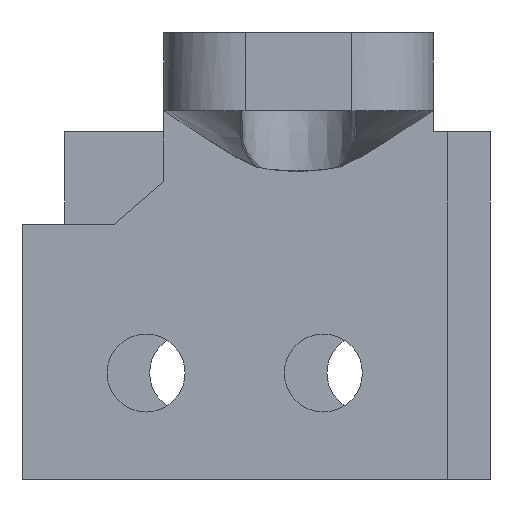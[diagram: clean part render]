
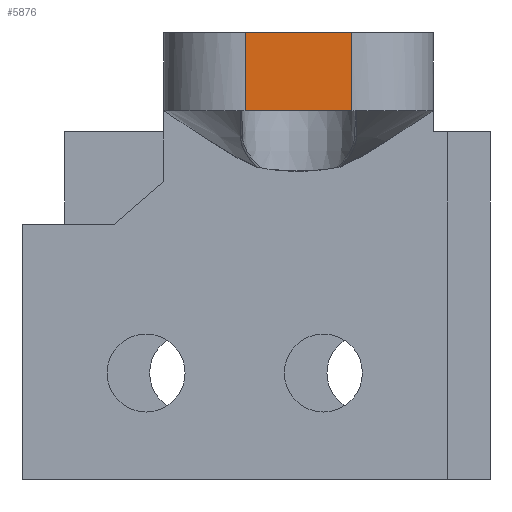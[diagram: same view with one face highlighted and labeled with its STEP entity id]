
A CAD part, left-side view. The second image highlights one B-rep face of the part: STEP entity #5876.
In plain terms, the highlighted planar face has unit normal (-1, 0, 0).
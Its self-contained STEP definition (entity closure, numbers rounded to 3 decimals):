
#18 = CARTESIAN_POINT ( 'NONE',  ( -159., 51., -208.5 ) ) ;
#370 = ORIENTED_EDGE ( 'NONE', *, *, #7541, .T. ) ;
#464 = LINE ( 'NONE', #17112, #8062 ) ;
#979 = CARTESIAN_POINT ( 'NONE',  ( -159., 51., -208.5 ) ) ;
#2056 = DIRECTION ( 'NONE',  ( 0., 0., 1. ) ) ;
#2527 = VERTEX_POINT ( 'NONE', #15129 ) ;
#4786 = VERTEX_POINT ( 'NONE', #18430 ) ;
#4814 = ORIENTED_EDGE ( 'NONE', *, *, #7433, .F. ) ;
#5166 = VECTOR ( 'NONE', #19207, 1000. ) ;
#5722 = VERTEX_POINT ( 'NONE', #19803 ) ;
#5876 = ADVANCED_FACE ( 'NONE', ( #21747 ), #17041, .F. ) ;
#7433 = EDGE_CURVE ( 'NONE', #2527, #4786, #12292, .T. ) ;
#7541 = EDGE_CURVE ( 'NONE', #5722, #10307, #11244, .T. ) ;
#7637 = VECTOR ( 'NONE', #9404, 1000. ) ;
#8062 = VECTOR ( 'NONE', #2056, 1000. ) ;
#8412 = EDGE_CURVE ( 'NONE', #5722, #2527, #464, .T. ) ;
#8520 = CARTESIAN_POINT ( 'NONE',  ( -159., 66., -197.5 ) ) ;
#8521 = CARTESIAN_POINT ( 'NONE',  ( -159., 66., -208.5 ) ) ;
#9404 = DIRECTION ( 'NONE',  ( 0., 0., -1. ) ) ;
#9793 = EDGE_LOOP ( 'NONE', ( #370, #16379, #4814, #13499 ) ) ;
#10176 = VECTOR ( 'NONE', #13664, 1000. ) ;
#10307 = VERTEX_POINT ( 'NONE', #18 ) ;
#11244 = LINE ( 'NONE', #20985, #5166 ) ;
#12088 = AXIS2_PLACEMENT_3D ( 'NONE', #8521, #16898, #15271 ) ;
#12292 = LINE ( 'NONE', #8520, #10176 ) ;
#13499 = ORIENTED_EDGE ( 'NONE', *, *, #8412, .F. ) ;
#13664 = DIRECTION ( 'NONE',  ( 0., -1., 0. ) ) ;
#15129 = CARTESIAN_POINT ( 'NONE',  ( -159., 66., -197.5 ) ) ;
#15271 = DIRECTION ( 'NONE',  ( 0., 0., 1. ) ) ;
#16379 = ORIENTED_EDGE ( 'NONE', *, *, #20660, .F. ) ;
#16898 = DIRECTION ( 'NONE',  ( 1., 0., 0. ) ) ;
#17041 = PLANE ( 'NONE',  #12088 ) ;
#17112 = CARTESIAN_POINT ( 'NONE',  ( -159., 66., -208.5 ) ) ;
#18430 = CARTESIAN_POINT ( 'NONE',  ( -159., 51., -197.5 ) ) ;
#19207 = DIRECTION ( 'NONE',  ( 0., -1., 0. ) ) ;
#19803 = CARTESIAN_POINT ( 'NONE',  ( -159., 66., -208.5 ) ) ;
#19968 = LINE ( 'NONE', #979, #7637 ) ;
#20660 = EDGE_CURVE ( 'NONE', #4786, #10307, #19968, .T. ) ;
#20985 = CARTESIAN_POINT ( 'NONE',  ( -159., 66., -208.5 ) ) ;
#21747 = FACE_OUTER_BOUND ( 'NONE', #9793, .T. ) ;
